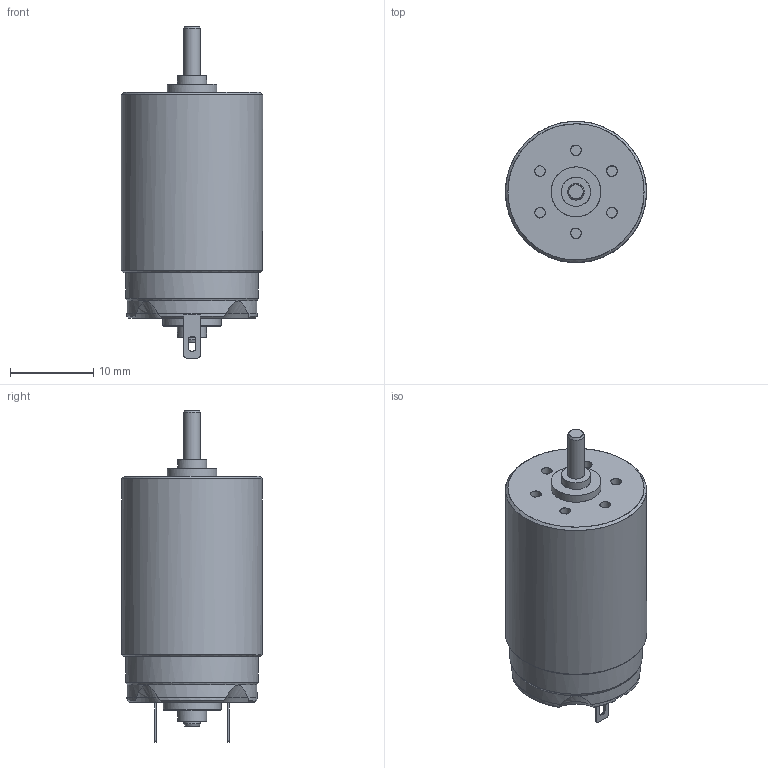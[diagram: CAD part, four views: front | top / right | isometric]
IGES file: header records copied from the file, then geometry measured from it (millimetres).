
Global section: file name: S:\Projects\2015\P2015.044.00_maintenance_1727_CXR\P2015.044.01_maintenance_1727_CXR\3_Departments\DFF\Mechanical_Design\CAD\Huellenmodelle\20151026\1727_0H001_C.igs; native system: NX V8.5; preprocessor: SIEMENS PLM Software NX 8.5; author: DR. FRITZ FAULHABER GmbH & Co. KG; organization: DR. FRITZ FAULHABER GmbH & Co. KG; date: 20151026.141424; units: millimetre
Bounding box: 17 x 16.98 x 40 mm (x, y, z)
Surface area: 2158.8 mm2 (no closed solid volume)
Topology: 0 solids, 0 shells, 119 faces, 856 edges, 868 vertices
Faces by surface type: bspline 119
